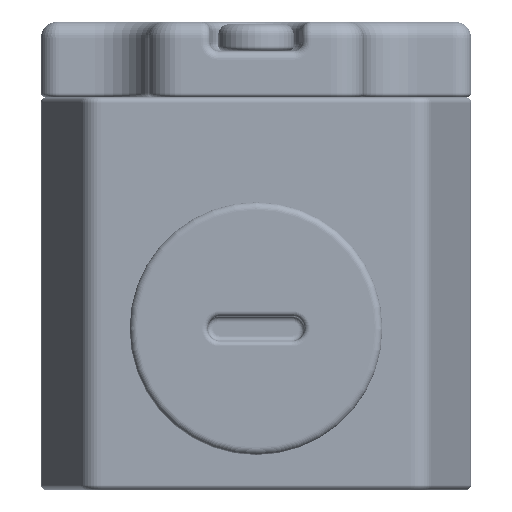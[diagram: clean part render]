
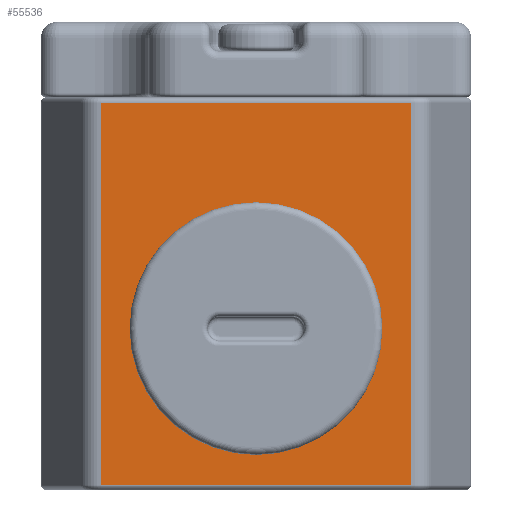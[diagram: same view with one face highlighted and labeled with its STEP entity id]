
A CAD part, front view. The second image highlights one B-rep face of the part: STEP entity #55536.
In plain terms, the highlighted planar face has unit normal (0, -1, 0).
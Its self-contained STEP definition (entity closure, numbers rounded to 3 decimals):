
#1926 = CARTESIAN_POINT ( 'NONE',  ( -14.401, -80., 0.5 ) ) ;
#2980 = CARTESIAN_POINT ( 'NONE',  ( -14.401, -80., 36.5 ) ) ;
#3298 = FACE_BOUND ( 'NONE', #68653, .T. ) ;
#3607 = VERTEX_POINT ( 'NONE', #1926 ) ;
#4889 = DIRECTION ( 'NONE',  ( 0., 0., 1. ) ) ;
#5801 = DIRECTION ( 'NONE',  ( 0., 1., 0. ) ) ;
#10836 = CARTESIAN_POINT ( 'NONE',  ( 0., -80., 4. ) ) ;
#10913 = CIRCLE ( 'NONE', #55712, 11. ) ;
#11435 = CARTESIAN_POINT ( 'NONE',  ( 0., -80., 15. ) ) ;
#13750 = LINE ( 'NONE', #32118, #27636 ) ;
#13918 = CIRCLE ( 'NONE', #37025, 11. ) ;
#15264 = VERTEX_POINT ( 'NONE', #10836 ) ;
#17425 = DIRECTION ( 'NONE',  ( 0., 0., 1. ) ) ;
#18650 = ORIENTED_EDGE ( 'NONE', *, *, #41111, .T. ) ;
#22869 = ORIENTED_EDGE ( 'NONE', *, *, #69357, .T. ) ;
#25370 = DIRECTION ( 'NONE',  ( 0., 1., 0. ) ) ;
#26157 = DIRECTION ( 'NONE',  ( -1., 0., 0. ) ) ;
#27508 = VERTEX_POINT ( 'NONE', #68949 ) ;
#27636 = VECTOR ( 'NONE', #26157, 1000. ) ;
#29160 = VECTOR ( 'NONE', #44480, 1000. ) ;
#30228 = LINE ( 'NONE', #40661, #75653 ) ;
#31171 = LINE ( 'NONE', #32762, #60867 ) ;
#31817 = ORIENTED_EDGE ( 'NONE', *, *, #34458, .T. ) ;
#32118 = CARTESIAN_POINT ( 'NONE',  ( -14.401, -80., 36. ) ) ;
#32762 = CARTESIAN_POINT ( 'NONE',  ( -20., -80., 0.5 ) ) ;
#32981 = VERTEX_POINT ( 'NONE', #35404 ) ;
#32997 = FACE_OUTER_BOUND ( 'NONE', #37280, .T. ) ;
#33727 = AXIS2_PLACEMENT_3D ( 'NONE', #37000, #25370, #66832 ) ;
#34458 = EDGE_CURVE ( 'NONE', #3607, #27508, #31171, .T. ) ;
#35404 = CARTESIAN_POINT ( 'NONE',  ( 14.401, -80., 36. ) ) ;
#37000 = CARTESIAN_POINT ( 'NONE',  ( -20., -80., 36.5 ) ) ;
#37025 = AXIS2_PLACEMENT_3D ( 'NONE', #41353, #5801, #47313 ) ;
#37280 = EDGE_LOOP ( 'NONE', ( #18650, #31817, #71944, #22869 ) ) ;
#39093 = CARTESIAN_POINT ( 'NONE',  ( 0., -80., 26. ) ) ;
#40661 = CARTESIAN_POINT ( 'NONE',  ( 14.401, -80., 36.5 ) ) ;
#41111 = EDGE_CURVE ( 'NONE', #63400, #3607, #60723, .T. ) ;
#41353 = CARTESIAN_POINT ( 'NONE',  ( 0., -80., 15. ) ) ;
#42970 = PLANE ( 'NONE',  #33727 ) ;
#44480 = DIRECTION ( 'NONE',  ( 0., 0., -1. ) ) ;
#47313 = DIRECTION ( 'NONE',  ( 0., 0., 1. ) ) ;
#47633 = EDGE_CURVE ( 'NONE', #64009, #15264, #10913, .T. ) ;
#50373 = DIRECTION ( 'NONE',  ( 1., 0., 0. ) ) ;
#52942 = DIRECTION ( 'NONE',  ( 0., 1., 0. ) ) ;
#55313 = EDGE_CURVE ( 'NONE', #27508, #32981, #30228, .T. ) ;
#55536 = ADVANCED_FACE ( 'NONE', ( #3298, #32997 ), #42970, .F. ) ;
#55712 = AXIS2_PLACEMENT_3D ( 'NONE', #11435, #52942, #17425 ) ;
#60723 = LINE ( 'NONE', #2980, #29160 ) ;
#60867 = VECTOR ( 'NONE', #50373, 1000. ) ;
#61534 = CARTESIAN_POINT ( 'NONE',  ( -14.401, -80., 36. ) ) ;
#63400 = VERTEX_POINT ( 'NONE', #61534 ) ;
#64009 = VERTEX_POINT ( 'NONE', #39093 ) ;
#66832 = DIRECTION ( 'NONE',  ( 0., 0., 1. ) ) ;
#68326 = ORIENTED_EDGE ( 'NONE', *, *, #47633, .T. ) ;
#68653 = EDGE_LOOP ( 'NONE', ( #73720, #68326 ) ) ;
#68949 = CARTESIAN_POINT ( 'NONE',  ( 14.401, -80., 0.5 ) ) ;
#69357 = EDGE_CURVE ( 'NONE', #32981, #63400, #13750, .T. ) ;
#71944 = ORIENTED_EDGE ( 'NONE', *, *, #55313, .T. ) ;
#73720 = ORIENTED_EDGE ( 'NONE', *, *, #76464, .T. ) ;
#75653 = VECTOR ( 'NONE', #4889, 1000. ) ;
#76464 = EDGE_CURVE ( 'NONE', #15264, #64009, #13918, .T. ) ;
